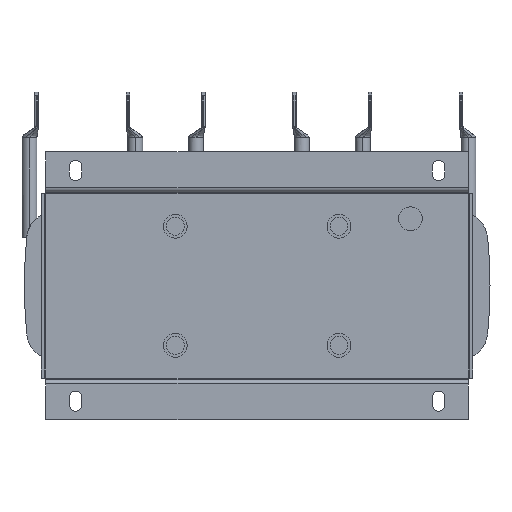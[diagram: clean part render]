
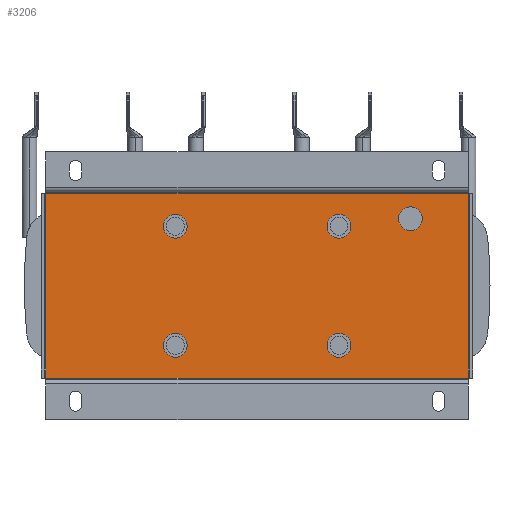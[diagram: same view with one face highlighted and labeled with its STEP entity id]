
A CAD part, front view. The second image highlights one B-rep face of the part: STEP entity #3206.
In plain terms, the highlighted planar face has unit normal (0, -1, 0).
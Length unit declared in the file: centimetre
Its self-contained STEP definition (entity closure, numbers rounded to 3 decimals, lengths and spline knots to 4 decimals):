
#229 = ORIENTED_EDGE ( 'NONE', *, *, #8150, .T. ) ;
#423 = DIRECTION ( 'NONE',  ( 0., 0., -1. ) ) ;
#459 = VERTEX_POINT ( 'NONE', #4867 ) ;
#470 = CARTESIAN_POINT ( 'NONE',  ( 5.5, 1.6, 3.2 ) ) ;
#528 = VERTEX_POINT ( 'NONE', #16931 ) ;
#581 = AXIS2_PLACEMENT_3D ( 'NONE', #11265, #7349, #9934 ) ;
#639 = ORIENTED_EDGE ( 'NONE', *, *, #12413, .F. ) ;
#1005 = DIRECTION ( 'NONE',  ( 1., 0., 0. ) ) ;
#1070 = ORIENTED_EDGE ( 'NONE', *, *, #2447, .F. ) ;
#1157 = LINE ( 'NONE', #12957, #15044 ) ;
#1184 = DIRECTION ( 'NONE',  ( 0., -1., 0. ) ) ;
#1306 = CIRCLE ( 'NONE', #3566, 0.8 ) ;
#1572 = VERTEX_POINT ( 'NONE', #8680 ) ;
#1819 = ORIENTED_EDGE ( 'NONE', *, *, #14682, .F. ) ;
#1904 = VERTEX_POINT ( 'NONE', #6892 ) ;
#2261 = CARTESIAN_POINT ( 'NONE',  ( 5.5, 1.6, 4. ) ) ;
#2447 = EDGE_CURVE ( 'NONE', #528, #12693, #2532, .T. ) ;
#2532 = CIRCLE ( 'NONE', #4800, 0.8 ) ;
#2552 = ORIENTED_EDGE ( 'NONE', *, *, #3341, .F. ) ;
#2582 = PLANE ( 'NONE',  #3910 ) ;
#2670 = DIRECTION ( 'NONE',  ( 0., 0., -1. ) ) ;
#2847 = ORIENTED_EDGE ( 'NONE', *, *, #5269, .F. ) ;
#2862 = CARTESIAN_POINT ( 'NONE',  ( 5.5, 1.6, 4.8 ) ) ;
#2867 = VERTEX_POINT ( 'NONE', #10355 ) ;
#2925 = DIRECTION ( 'NONE',  ( 0., -1., 0. ) ) ;
#3126 = DIRECTION ( 'NONE',  ( 0., 0., -1. ) ) ;
#3206 = ADVANCED_FACE ( 'NONE', ( #17392, #5249, #3915, #13211, #9326, #14715 ), #2582, .T. ) ;
#3341 = EDGE_CURVE ( 'NONE', #1904, #4392, #5330, .T. ) ;
#3362 = AXIS2_PLACEMENT_3D ( 'NONE', #5196, #1184, #12104 ) ;
#3566 = AXIS2_PLACEMENT_3D ( 'NONE', #4170, #9495, #17381 ) ;
#3811 = CARTESIAN_POINT ( 'NONE',  ( -5.5, 1.6, 4. ) ) ;
#3910 = AXIS2_PLACEMENT_3D ( 'NONE', #7986, #17482, #2670 ) ;
#3915 = FACE_BOUND ( 'NONE', #11257, .T. ) ;
#3968 = EDGE_CURVE ( 'NONE', #6307, #9259, #12364, .T. ) ;
#3983 = ORIENTED_EDGE ( 'NONE', *, *, #13572, .T. ) ;
#4009 = LINE ( 'NONE', #8078, #14428 ) ;
#4109 = VERTEX_POINT ( 'NONE', #6490 ) ;
#4170 = CARTESIAN_POINT ( 'NONE',  ( 5.5, 1.6, 4. ) ) ;
#4392 = VERTEX_POINT ( 'NONE', #13375 ) ;
#4429 = CARTESIAN_POINT ( 'NONE',  ( -14.2, 1.6, 6.2 ) ) ;
#4670 = EDGE_LOOP ( 'NONE', ( #2847, #5973 ) ) ;
#4800 = AXIS2_PLACEMENT_3D ( 'NONE', #17038, #8969, #10054 ) ;
#4867 = CARTESIAN_POINT ( 'NONE',  ( 5.5, 1.6, -3.2 ) ) ;
#5152 = ORIENTED_EDGE ( 'NONE', *, *, #14004, .F. ) ;
#5196 = CARTESIAN_POINT ( 'NONE',  ( 5.5, 1.6, -4. ) ) ;
#5249 = FACE_BOUND ( 'NONE', #11654, .T. ) ;
#5269 = EDGE_CURVE ( 'NONE', #8817, #5642, #1306, .T. ) ;
#5330 = CIRCLE ( 'NONE', #7584, 0.8 ) ;
#5519 = DIRECTION ( 'NONE',  ( 0., -1., 0. ) ) ;
#5626 = CARTESIAN_POINT ( 'NONE',  ( -14.2, 1.6, 6.2 ) ) ;
#5642 = VERTEX_POINT ( 'NONE', #470 ) ;
#5753 = ORIENTED_EDGE ( 'NONE', *, *, #9690, .F. ) ;
#5973 = ORIENTED_EDGE ( 'NONE', *, *, #10564, .F. ) ;
#6209 = EDGE_CURVE ( 'NONE', #4109, #6888, #12878, .T. ) ;
#6299 = CARTESIAN_POINT ( 'NONE',  ( -14.2, 1.6, -6.2 ) ) ;
#6307 = VERTEX_POINT ( 'NONE', #4429 ) ;
#6490 = CARTESIAN_POINT ( 'NONE',  ( 10.3, 1.6, 5.3 ) ) ;
#6741 = DIRECTION ( 'NONE',  ( 0., -1., 0. ) ) ;
#6888 = VERTEX_POINT ( 'NONE', #9002 ) ;
#6892 = CARTESIAN_POINT ( 'NONE',  ( -5.5, 1.6, 4.8 ) ) ;
#7333 = EDGE_LOOP ( 'NONE', ( #11959, #1819 ) ) ;
#7349 = DIRECTION ( 'NONE',  ( 0., -1., 0. ) ) ;
#7584 = AXIS2_PLACEMENT_3D ( 'NONE', #12590, #5519, #423 ) ;
#7613 = VECTOR ( 'NONE', #1005, 100. ) ;
#7986 = CARTESIAN_POINT ( 'NONE',  ( 0., 1.6, 0. ) ) ;
#7993 = AXIS2_PLACEMENT_3D ( 'NONE', #15063, #2925, #9490 ) ;
#8078 = CARTESIAN_POINT ( 'NONE',  ( -14.2, 1.6, 6.2 ) ) ;
#8150 = EDGE_CURVE ( 'NONE', #9259, #1572, #15746, .T. ) ;
#8680 = CARTESIAN_POINT ( 'NONE',  ( 14.2, 1.6, -6.2 ) ) ;
#8817 = VERTEX_POINT ( 'NONE', #2862 ) ;
#8969 = DIRECTION ( 'NONE',  ( 0., -1., 0. ) ) ;
#9002 = CARTESIAN_POINT ( 'NONE',  ( 10.3, 1.6, 3.7 ) ) ;
#9259 = VERTEX_POINT ( 'NONE', #6299 ) ;
#9326 = FACE_BOUND ( 'NONE', #11895, .T. ) ;
#9381 = CIRCLE ( 'NONE', #581, 0.8 ) ;
#9423 = CIRCLE ( 'NONE', #7993, 0.8 ) ;
#9490 = DIRECTION ( 'NONE',  ( 0., 0., -1. ) ) ;
#9495 = DIRECTION ( 'NONE',  ( 0., -1., 0. ) ) ;
#9516 = DIRECTION ( 'NONE',  ( 0., 0., -1. ) ) ;
#9690 = EDGE_CURVE ( 'NONE', #459, #15189, #12986, .T. ) ;
#9853 = CARTESIAN_POINT ( 'NONE',  ( 10.3, 1.6, 4.5 ) ) ;
#9870 = AXIS2_PLACEMENT_3D ( 'NONE', #2261, #11758, #17346 ) ;
#9934 = DIRECTION ( 'NONE',  ( 0., 0., -1. ) ) ;
#10054 = DIRECTION ( 'NONE',  ( 0., 0., -1. ) ) ;
#10113 = DIRECTION ( 'NONE',  ( 0., 0., -1. ) ) ;
#10180 = ORIENTED_EDGE ( 'NONE', *, *, #14566, .T. ) ;
#10234 = CIRCLE ( 'NONE', #12202, 0.8 ) ;
#10318 = DIRECTION ( 'NONE',  ( 0., 0., 1. ) ) ;
#10355 = CARTESIAN_POINT ( 'NONE',  ( 14.2, 1.6, 6.2 ) ) ;
#10404 = ORIENTED_EDGE ( 'NONE', *, *, #3968, .T. ) ;
#10564 = EDGE_CURVE ( 'NONE', #5642, #8817, #17510, .T. ) ;
#10940 = CARTESIAN_POINT ( 'NONE',  ( 10.3, 1.6, 4.5 ) ) ;
#11257 = EDGE_LOOP ( 'NONE', ( #12253, #1070 ) ) ;
#11265 = CARTESIAN_POINT ( 'NONE',  ( -5.5, 1.6, -4. ) ) ;
#11353 = DIRECTION ( 'NONE',  ( 0., -1., 0. ) ) ;
#11654 = EDGE_LOOP ( 'NONE', ( #5753, #639 ) ) ;
#11758 = DIRECTION ( 'NONE',  ( 0., -1., 0. ) ) ;
#11895 = EDGE_LOOP ( 'NONE', ( #2552, #5152 ) ) ;
#11959 = ORIENTED_EDGE ( 'NONE', *, *, #6209, .F. ) ;
#12104 = DIRECTION ( 'NONE',  ( 0., 0., -1. ) ) ;
#12202 = AXIS2_PLACEMENT_3D ( 'NONE', #3811, #6741, #14700 ) ;
#12253 = ORIENTED_EDGE ( 'NONE', *, *, #16352, .F. ) ;
#12364 = LINE ( 'NONE', #5626, #15883 ) ;
#12413 = EDGE_CURVE ( 'NONE', #15189, #459, #9423, .T. ) ;
#12590 = CARTESIAN_POINT ( 'NONE',  ( -5.5, 1.6, 4. ) ) ;
#12693 = VERTEX_POINT ( 'NONE', #13707 ) ;
#12878 = CIRCLE ( 'NONE', #14002, 0.8 ) ;
#12957 = CARTESIAN_POINT ( 'NONE',  ( 14.2, 1.6, 6.2 ) ) ;
#12986 = CIRCLE ( 'NONE', #3362, 0.8 ) ;
#13161 = CARTESIAN_POINT ( 'NONE',  ( -14.2, 1.6, -6.2 ) ) ;
#13211 = FACE_BOUND ( 'NONE', #4670, .T. ) ;
#13375 = CARTESIAN_POINT ( 'NONE',  ( -5.5, 1.6, 3.2 ) ) ;
#13572 = EDGE_CURVE ( 'NONE', #2867, #6307, #4009, .T. ) ;
#13707 = CARTESIAN_POINT ( 'NONE',  ( -5.5, 1.6, -3.2 ) ) ;
#13892 = EDGE_LOOP ( 'NONE', ( #10404, #229, #10180, #3983 ) ) ;
#14002 = AXIS2_PLACEMENT_3D ( 'NONE', #9853, #11353, #10113 ) ;
#14004 = EDGE_CURVE ( 'NONE', #4392, #1904, #10234, .T. ) ;
#14144 = CIRCLE ( 'NONE', #16437, 0.8 ) ;
#14428 = VECTOR ( 'NONE', #16252, 100. ) ;
#14566 = EDGE_CURVE ( 'NONE', #1572, #2867, #1157, .T. ) ;
#14682 = EDGE_CURVE ( 'NONE', #6888, #4109, #14144, .T. ) ;
#14700 = DIRECTION ( 'NONE',  ( 0., 0., -1. ) ) ;
#14715 = FACE_OUTER_BOUND ( 'NONE', #13892, .T. ) ;
#15044 = VECTOR ( 'NONE', #10318, 100. ) ;
#15063 = CARTESIAN_POINT ( 'NONE',  ( 5.5, 1.6, -4. ) ) ;
#15189 = VERTEX_POINT ( 'NONE', #16856 ) ;
#15746 = LINE ( 'NONE', #13161, #7613 ) ;
#15883 = VECTOR ( 'NONE', #3126, 100. ) ;
#16252 = DIRECTION ( 'NONE',  ( -1., 0., 0. ) ) ;
#16352 = EDGE_CURVE ( 'NONE', #12693, #528, #9381, .T. ) ;
#16437 = AXIS2_PLACEMENT_3D ( 'NONE', #10940, #17489, #9516 ) ;
#16856 = CARTESIAN_POINT ( 'NONE',  ( 5.5, 1.6, -4.8 ) ) ;
#16931 = CARTESIAN_POINT ( 'NONE',  ( -5.5, 1.6, -4.8 ) ) ;
#17038 = CARTESIAN_POINT ( 'NONE',  ( -5.5, 1.6, -4. ) ) ;
#17346 = DIRECTION ( 'NONE',  ( 0., 0., -1. ) ) ;
#17381 = DIRECTION ( 'NONE',  ( 0., 0., -1. ) ) ;
#17392 = FACE_BOUND ( 'NONE', #7333, .T. ) ;
#17482 = DIRECTION ( 'NONE',  ( 0., -1., 0. ) ) ;
#17489 = DIRECTION ( 'NONE',  ( 0., -1., 0. ) ) ;
#17510 = CIRCLE ( 'NONE', #9870, 0.8 ) ;
